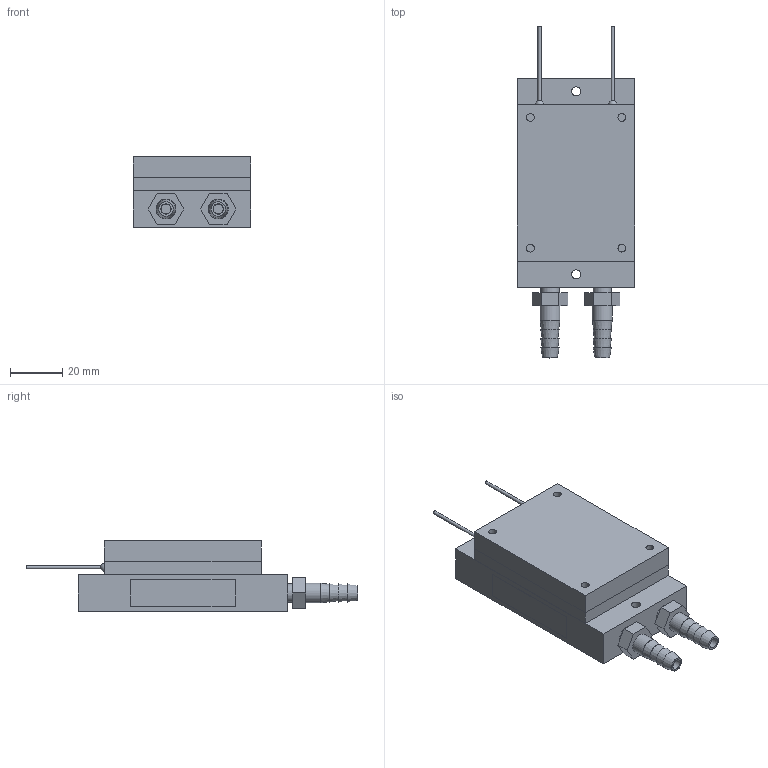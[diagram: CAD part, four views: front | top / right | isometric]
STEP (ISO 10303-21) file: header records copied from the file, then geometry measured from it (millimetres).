
FILE_DESCRIPTION(('STEP AP214'),'1');
FILE_NAME('HMC-21W-0300.stp','2026-03-16T23:46:34',(' '),(' '),'Spatial InterOp 3D',' ',' ');
FILE_SCHEMA(('AUTOMOTIVE_DESIGN { 1 0 10303 214 1 1 1 1 }'));
Length unit declared in the file: metre
Products named in the file (10): HMC-21W-0300; 水路板; 断熱枠; 冷却板; ホースニップル; ペルチェリード線; 接着剤封止箇所; 小型ワッシャー+ばね座金; ネジ頭; 製造番号シール
Assembly tree (9 placements, depth 2):
  HMC-21W-0300
    水路板
    断熱枠
    冷却板
    ホースニップル
    ペルチェリード線
    接着剤封止箇所
    小型ワッシャー+ばね座金
    ネジ頭
    製造番号シール
Bounding box: 45.1 x 127 x 27 mm (x, y, z)
Volume: 81061.4 mm3; surface area: 32016.2 mm2
Topology: 16 solids, 16 shells, 160 faces, 360 edges, 222 vertices
Faces by surface type: plane 118, cylinder 30, cone 8, sphere 2, bspline 2
Full cylindrical faces by diameter (mm): 1.2 x4, 2 x2, 3 x6, 3.5 x2, 3.81 x2, 4 x2, 5 x2, 6 x2, 7 x2, 7.61 x2, 8 x2, 8.5 x2
Entity records: 5655 total; most frequent: CARTESIAN_POINT 872, DIRECTION 672, ORIENTED_EDGE 536, EDGE_CURVE 268, AXIS2_PLACEMENT_3D 260, EDGE_LOOP 236, VERTEX_POINT 204, FACE_OUTER_BOUND 194
